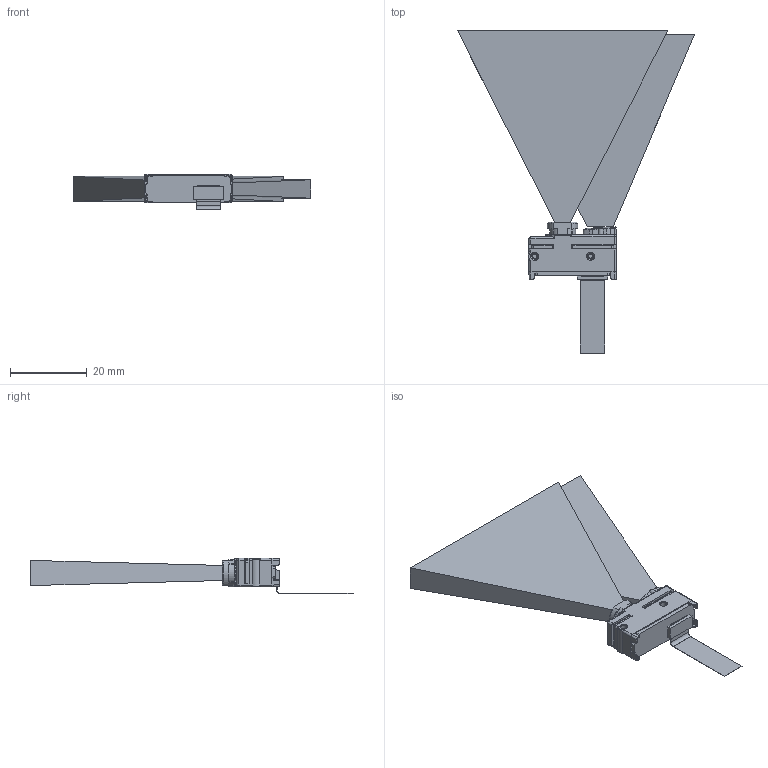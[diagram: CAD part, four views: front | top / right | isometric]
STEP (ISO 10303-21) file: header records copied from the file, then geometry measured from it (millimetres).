
FILE_DESCRIPTION((''),'2;1');
FILE_NAME('MDC200_ASM','2015-05-07T',('skomi0303'),(''),'PRO/ENGINEER BY PARAMETRIC TECHNOLOGY CORPORATION, 2014090','PRO/ENGINEER BY PARAMETRIC TECHNOLOGY CORPORATION, 2014090','');
FILE_SCHEMA(('CONFIG_CONTROL_DESIGN'));
Length unit declared in the file: millimetre
Products named in the file (11): R-4_75_PCB_AF1_12; R-4_15_FPC_AF0_4; R-4_75_PCB_AF0_ASM_16_ASM; R-4_LENS_BARREL_AF0_24; R-4A_MASTER_LENS_AF0_ASM_13_ASM; R-4_CAMERA_BODY_75_CAVI_AF0_37; R-4A_MASK_LENS_F_5; R-4A_AIMING_AF0_4; R-4A_KOURO_2; R-4_75_ASM_25_ASM; MDC200_ASM
Assembly tree (10 placements, depth 4):
  MDC200_ASM
    R-4_75_ASM_25_ASM
      R-4_75_PCB_AF0_ASM_16_ASM
        R-4_75_PCB_AF1_12
        R-4_15_FPC_AF0_4
      R-4A_MASTER_LENS_AF0_ASM_13_ASM
        R-4_LENS_BARREL_AF0_24
      R-4_CAMERA_BODY_75_CAVI_AF0_37
      R-4A_MASK_LENS_F_5
      R-4A_AIMING_AF0_4
      R-4A_KOURO_2
Bounding box: 61.94 x 84.19 x 9.28 mm (x, y, z)
Volume: 15948.6 mm3; surface area: 10478.1 mm2
Topology: 7 solids, 7 shells, 679 faces, 1730 edges, 1060 vertices
Faces by surface type: cylinder 249, plane 232, bspline 78, torus 58, cone 39, sphere 22, extrusion 1
Entity records: 23919 total; most frequent: CARTESIAN_POINT 7937, ORIENTED_EDGE 3422, DIRECTION 3192, EDGE_CURVE 1711, AXIS2_PLACEMENT_3D 1203, VERTEX_POINT 1060, VECTOR 786, LINE 785
